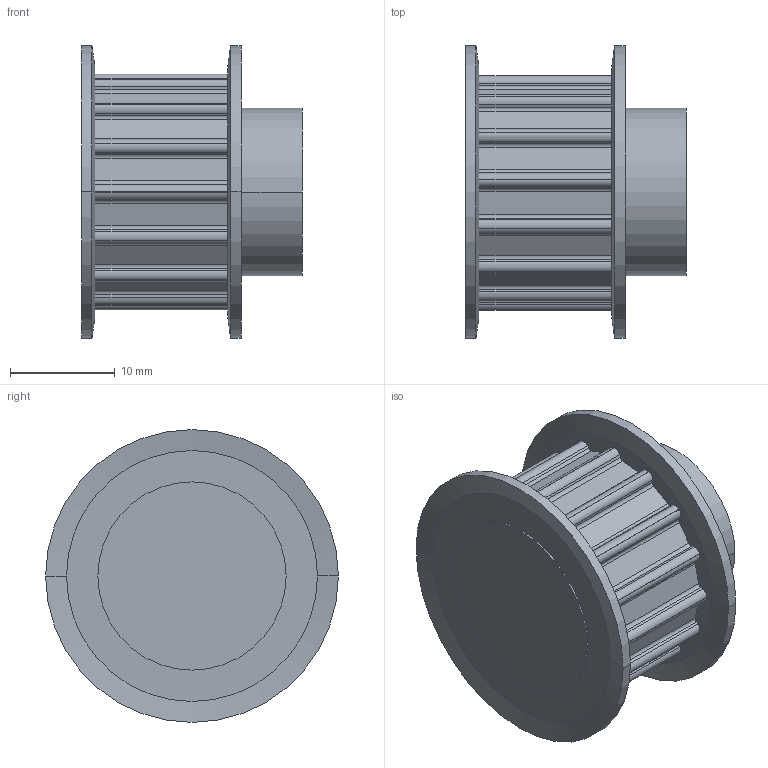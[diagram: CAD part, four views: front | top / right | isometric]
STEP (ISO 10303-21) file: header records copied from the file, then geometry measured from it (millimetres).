
FILE_DESCRIPTION( ( '' ), '1' );
FILE_NAME( 'C:/Users/Stangenbergd/Documents/CAD_Step/1/16621500.stp', '2021-10-19T09:33:38', ( '' ), ( '' ), ' ', ' ', ' ' );
FILE_SCHEMA( ( 'CONFIG_CONTROL_DESIGN' ) );
Length unit declared in the file: millimetre
Products named in the file (1): 1
Bounding box: 21.13 x 28 x 28 mm (x, y, z)
Volume: 6974.8 mm3; surface area: 3311.5 mm2
Topology: 1 solids, 1 shells, 146 faces, 409 edges, 270 vertices
Faces by surface type: cylinder 86, plane 52, cone 8
Entity records: 4813 total; most frequent: DIRECTION 883, CARTESIAN_POINT 826, ORIENTED_EDGE 818, EDGE_CURVE 409, AXIS2_PLACEMENT_3D 327, VERTEX_POINT 270, LINE 229, VECTOR 229
